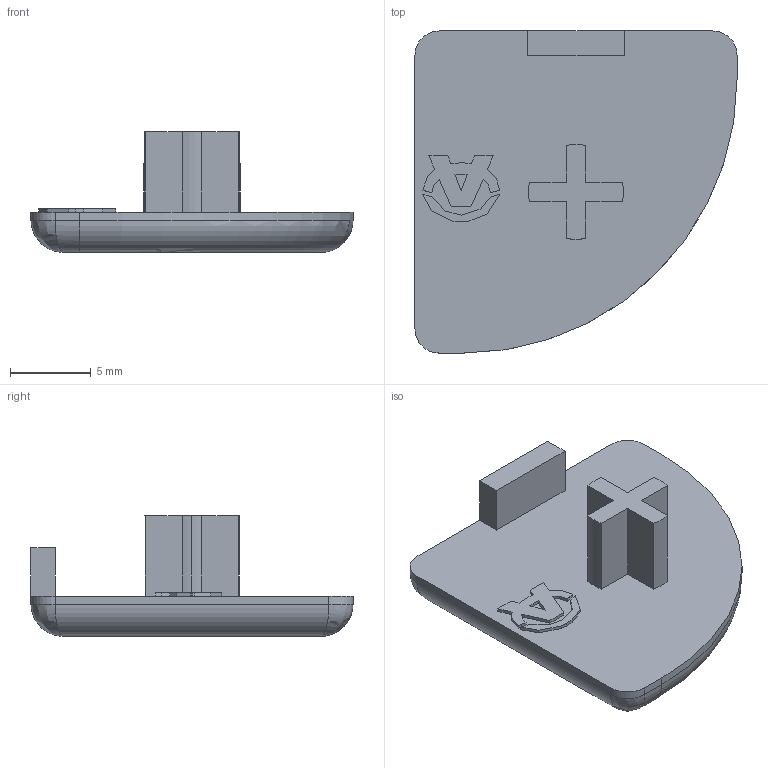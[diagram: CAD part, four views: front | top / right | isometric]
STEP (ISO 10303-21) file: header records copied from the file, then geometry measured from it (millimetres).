
FILE_DESCRIPTION (( 'STEP AP214' ), '1' );
FILE_NAME ('084.201.075.STEP', '2021-02-05T10:17:08', ( '' ), ( '' ), 'SwSTEP 2.0', 'SolidWorks 2018', '' );
FILE_SCHEMA (( 'AUTOMOTIVE_DESIGN' ));
Length unit declared in the file: millimetre
Products named in the file (1): 084.201.075
Bounding box: 20 x 20 x 7.5 mm (x, y, z)
Volume: 875.2 mm3; surface area: 976.9 mm2
Topology: 3 solids, 3 shells, 89 faces, 238 edges, 153 vertices
Faces by surface type: plane 72, cylinder 13, bspline 3, torus 1
Entity records: 2869 total; most frequent: CARTESIAN_POINT 619, ORIENTED_EDGE 470, DIRECTION 424, EDGE_CURVE 235, VECTOR 208, LINE 208, VERTEX_POINT 153, AXIS2_PLACEMENT_3D 108
